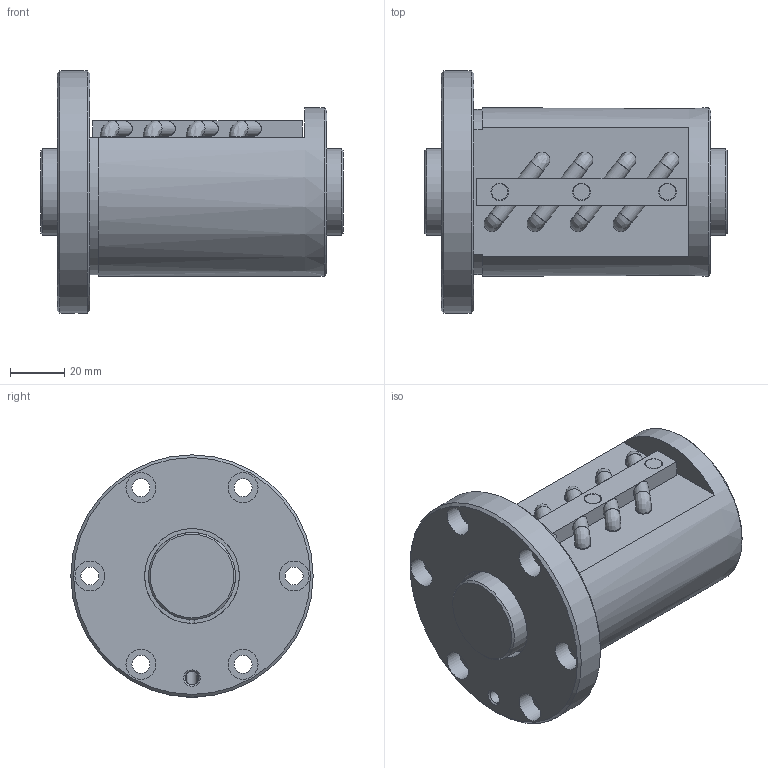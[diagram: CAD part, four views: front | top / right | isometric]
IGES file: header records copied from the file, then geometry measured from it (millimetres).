
Start section: Data from Parasolid IGES Translator 26.0.171, Copyright(c) 2006 Siemens PLM Software. All Rights Reserved.
Global section: file name: BIF3206V-10RRG0+111LC0_000.igs; native system: By Siemens PLM Incorporated; preprocessor: XPlus GENERIC/IGES 26.0.171; author: Noname; organization: Noname; date: 20240715.081837; units: millimetre
Bounding box: 111 x 89 x 89 mm (x, y, z)
Surface area: 58331.8 mm2 (no closed solid volume)
Topology: 0 solids, 0 shells, 130 faces, 626 edges, 584 vertices
Faces by surface type: revolution 77, extrusion 53
